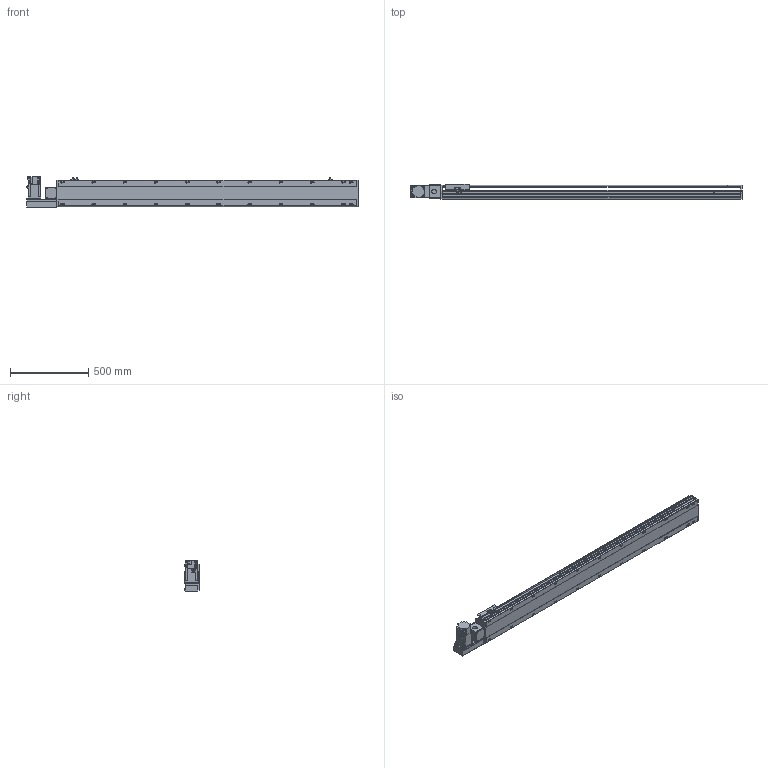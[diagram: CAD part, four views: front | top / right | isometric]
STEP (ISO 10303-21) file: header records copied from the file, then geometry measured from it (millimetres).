
FILE_DESCRIPTION( ( 'STEP AP214' ), '1' );
FILE_NAME( 'x:/temp/worker_3/temp/exporttempdir_5796_113_Q9wIV/format_0/PBS170-P40-S1650-L-T75-C1-N(0).stp', '2022-06-07T06:57:27', ( 'License CC BY-ND 4.0' ), ( 'CADENAS' ), ' ', 'PARTsolutions', ' ' );
FILE_SCHEMA( ( 'AUTOMOTIVE_DESIGN { 1 0 10303 214 1 1 1 1 }' ) );
Length unit declared in the file: millimetre
Products named in the file (7): PBS170-P40-S1650-L-T75-C1-N(0); _PBS170-S1650()_body; _PBS170T-L_motors; _T75-p1; _PBS170_sliser; _PBS170_plant; _PBS170_sensor
Assembly tree (8 placements, depth 2):
  PBS170-P40-S1650-L-T75-C1-N(0)
    _PBS170-S1650()_body
    _PBS170T-L_motors
    _T75-p1
    _PBS170_sliser
    _PBS170_plant
    _PBS170_sensor  x3
Bounding box: 2128 x 97 x 197.3 mm (x, y, z)
Volume: 15619127.4 mm3; surface area: 2000026.9 mm2
Topology: 8 solids, 8 shells, 1130 faces, 2995 edges, 1952 vertices
Faces by surface type: plane 705, cylinder 363, cone 52, sphere 8, torus 2
Full cylindrical faces by diameter (mm): 3.242 x4, 4 x2, 4.4 x4, 4.5 x6, 4.917 x4, 6 x9, 6.647 x30, 7 x2, 7.5 x4, 8 x8, 8.5 x22, 10 x4, 10.5 x22, 11 x2, 30 x2, 40 x1, 70 x1
Entity records: 41666 total; most frequent: CARTESIAN_POINT 6725, DIRECTION 5510, ORIENTED_EDGE 5208, EDGE_CURVE 2604, AXIS2_PLACEMENT_3D 1927, VERTEX_POINT 1802, LINE 1656, VECTOR 1656
